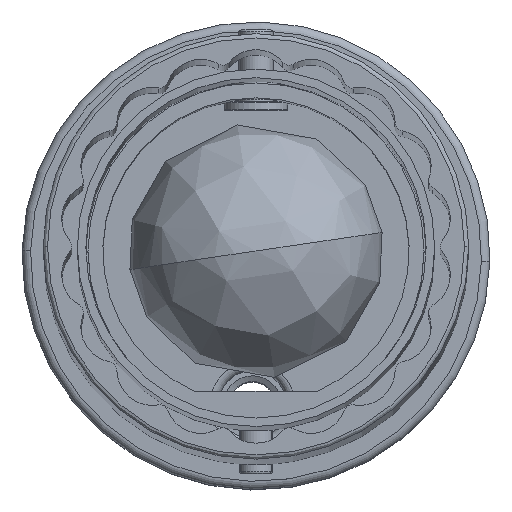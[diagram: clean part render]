
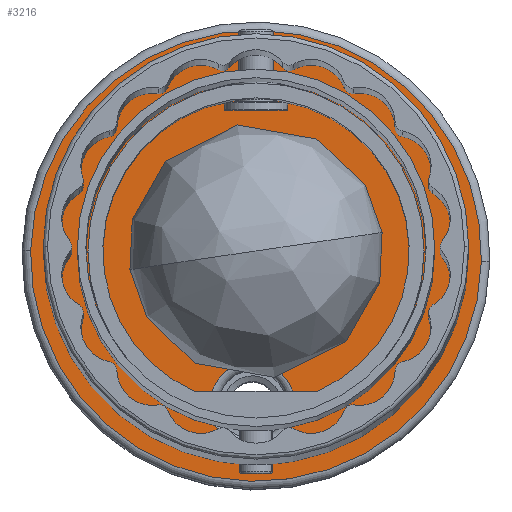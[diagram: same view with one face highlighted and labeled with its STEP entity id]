
A CAD part, top view. The second image highlights one B-rep face of the part: STEP entity #3216.
In plain terms, the highlighted planar face has unit normal (0, 0, 1).
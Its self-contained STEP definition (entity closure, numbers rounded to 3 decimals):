
#166 = EDGE_CURVE ( 'NONE', #9774, #7957, #477, .T. ) ;
#234 = EDGE_CURVE ( 'NONE', #6008, #2097, #2417, .T. ) ;
#324 = AXIS2_PLACEMENT_3D ( 'NONE', #3056, #10576, #9648 ) ;
#477 = CIRCLE ( 'NONE', #10049, 53. ) ;
#600 = CARTESIAN_POINT ( 'NONE',  ( -52.985, 1.261, -507.545 ) ) ;
#693 = CARTESIAN_POINT ( 'NONE',  ( 0., 0., -507.545 ) ) ;
#763 = CARTESIAN_POINT ( 'NONE',  ( -9.997, 0.238, -507.545 ) ) ;
#1415 = AXIS2_PLACEMENT_3D ( 'NONE', #693, #7306, #1649 ) ;
#1637 = DIRECTION ( 'NONE',  ( 0., 0., -1. ) ) ;
#1649 = DIRECTION ( 'NONE',  ( -1., 0.024, 0. ) ) ;
#1920 = VERTEX_POINT ( 'NONE', #763 ) ;
#1928 = CARTESIAN_POINT ( 'NONE',  ( -10.83, -34.752, -507.545 ) ) ;
#2097 = VERTEX_POINT ( 'NONE', #1928 ) ;
#2170 = DIRECTION ( 'NONE',  ( 0., 0., -1. ) ) ;
#2417 = CIRCLE ( 'NONE', #324, 10. ) ;
#2742 = PLANE ( 'NONE',  #8976 ) ;
#2953 = FACE_BOUND ( 'NONE', #6472, .T. ) ;
#3056 = CARTESIAN_POINT ( 'NONE',  ( -0.832, -34.99, -507.545 ) ) ;
#3076 = CIRCLE ( 'NONE', #10788, 10. ) ;
#3216 = ADVANCED_FACE ( 'NONE', ( #7952, #2953, #10164 ), #2742, .F. ) ;
#4076 = DIRECTION ( 'NONE',  ( 0., 0., -1. ) ) ;
#4126 = CARTESIAN_POINT ( 'NONE',  ( 9.165, -35.228, -507.545 ) ) ;
#4346 = AXIS2_PLACEMENT_3D ( 'NONE', #4970, #11543, #5919 ) ;
#4597 = EDGE_CURVE ( 'NONE', #1920, #9280, #3076, .T. ) ;
#4786 = CIRCLE ( 'NONE', #6245, 53. ) ;
#4883 = CARTESIAN_POINT ( 'NONE',  ( 52.985, -1.261, -507.545 ) ) ;
#4970 = CARTESIAN_POINT ( 'NONE',  ( -0.832, -34.99, -507.545 ) ) ;
#5533 = DIRECTION ( 'NONE',  ( 0., 0., -1. ) ) ;
#5712 = ORIENTED_EDGE ( 'NONE', *, *, #6732, .T. ) ;
#5919 = DIRECTION ( 'NONE',  ( -1., 0.024, 0. ) ) ;
#6008 = VERTEX_POINT ( 'NONE', #4126 ) ;
#6019 = EDGE_LOOP ( 'NONE', ( #11483, #11421 ) ) ;
#6245 = AXIS2_PLACEMENT_3D ( 'NONE', #7809, #2170, #8749 ) ;
#6324 = EDGE_CURVE ( 'NONE', #9280, #1920, #9929, .T. ) ;
#6472 = EDGE_LOOP ( 'NONE', ( #7766, #8670 ) ) ;
#6610 = ORIENTED_EDGE ( 'NONE', *, *, #234, .T. ) ;
#6732 = EDGE_CURVE ( 'NONE', #2097, #6008, #6983, .T. ) ;
#6745 = EDGE_CURVE ( 'NONE', #7957, #9774, #4786, .T. ) ;
#6983 = CIRCLE ( 'NONE', #4346, 10. ) ;
#7295 = CARTESIAN_POINT ( 'NONE',  ( 0., 0., -507.545 ) ) ;
#7306 = DIRECTION ( 'NONE',  ( 0., 0., -1. ) ) ;
#7424 = CARTESIAN_POINT ( 'NONE',  ( 0., 0., -507.545 ) ) ;
#7599 = CARTESIAN_POINT ( 'NONE',  ( 9.997, -0.238, -507.545 ) ) ;
#7766 = ORIENTED_EDGE ( 'NONE', *, *, #4597, .T. ) ;
#7809 = CARTESIAN_POINT ( 'NONE',  ( 0., 0., -507.545 ) ) ;
#7952 = FACE_BOUND ( 'NONE', #10469, .T. ) ;
#7957 = VERTEX_POINT ( 'NONE', #600 ) ;
#8232 = DIRECTION ( 'NONE',  ( -1., 0.024, 0. ) ) ;
#8670 = ORIENTED_EDGE ( 'NONE', *, *, #6324, .T. ) ;
#8749 = DIRECTION ( 'NONE',  ( -1., 0.024, 0. ) ) ;
#8976 = AXIS2_PLACEMENT_3D ( 'NONE', #7424, #5533, #9320 ) ;
#9280 = VERTEX_POINT ( 'NONE', #7599 ) ;
#9320 = DIRECTION ( 'NONE',  ( -1., 0.024, 0. ) ) ;
#9648 = DIRECTION ( 'NONE',  ( -1., 0.024, 0. ) ) ;
#9720 = CARTESIAN_POINT ( 'NONE',  ( 0., 0., -507.545 ) ) ;
#9774 = VERTEX_POINT ( 'NONE', #4883 ) ;
#9929 = CIRCLE ( 'NONE', #1415, 10. ) ;
#10049 = AXIS2_PLACEMENT_3D ( 'NONE', #9720, #4076, #10656 ) ;
#10164 = FACE_OUTER_BOUND ( 'NONE', #6019, .T. ) ;
#10469 = EDGE_LOOP ( 'NONE', ( #5712, #6610 ) ) ;
#10576 = DIRECTION ( 'NONE',  ( 0., 0., -1. ) ) ;
#10656 = DIRECTION ( 'NONE',  ( -1., 0.024, 0. ) ) ;
#10788 = AXIS2_PLACEMENT_3D ( 'NONE', #7295, #1637, #8232 ) ;
#11421 = ORIENTED_EDGE ( 'NONE', *, *, #166, .F. ) ;
#11483 = ORIENTED_EDGE ( 'NONE', *, *, #6745, .F. ) ;
#11543 = DIRECTION ( 'NONE',  ( 0., 0., -1. ) ) ;
